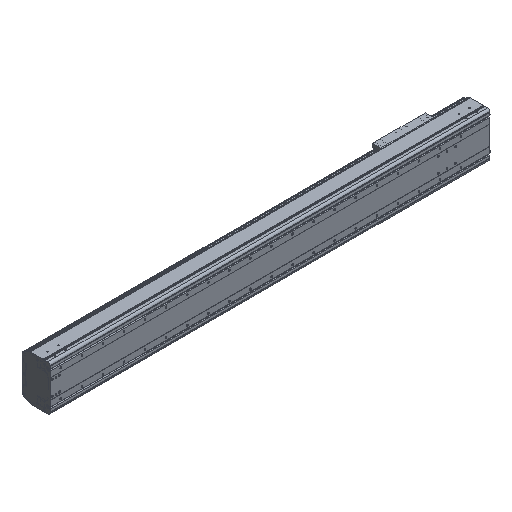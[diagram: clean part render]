
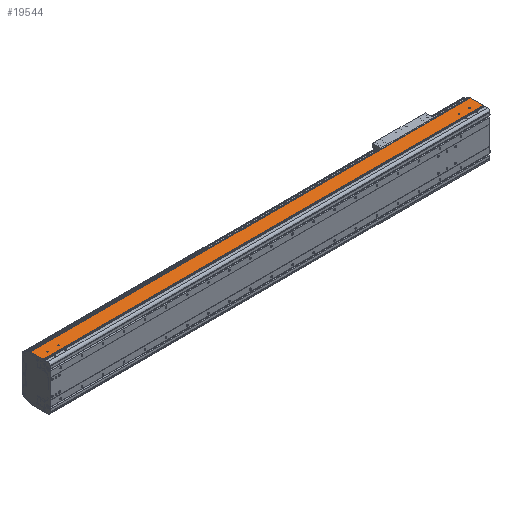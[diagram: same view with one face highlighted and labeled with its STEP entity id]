
A CAD part, isometric view. The second image highlights one B-rep face of the part: STEP entity #19544.
In plain terms, the highlighted planar face has unit normal (0, 0, 1).
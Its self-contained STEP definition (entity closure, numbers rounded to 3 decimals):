
#3266=DIRECTION('',(1.,0.,0.));
#3267=VECTOR('',#3266,2.);
#3268=CARTESIAN_POINT('',(0.,34.65,107.));
#3269=LINE('',#3268,#3267);
#3274=CARTESIAN_POINT('',(-42.,54.,107.));
#3275=DIRECTION('',(0.,0.,-1.));
#3276=DIRECTION('',(1.,0.,0.));
#3277=AXIS2_PLACEMENT_3D('',#3274,#3275,#3276);
#3279=CARTESIAN_POINT('',(-42.,54.,107.));
#3280=DIRECTION('',(0.,0.,-1.));
#3281=DIRECTION('',(-1.,0.,0.));
#3282=AXIS2_PLACEMENT_3D('',#3279,#3280,#3281);
#3284=CARTESIAN_POINT('',(-92.,54.,107.));
#3285=DIRECTION('',(0.,0.,-1.));
#3286=DIRECTION('',(1.,0.,0.));
#3287=AXIS2_PLACEMENT_3D('',#3284,#3285,#3286);
#3289=CARTESIAN_POINT('',(-92.,54.,107.));
#3290=DIRECTION('',(0.,0.,-1.));
#3291=DIRECTION('',(-1.,0.,0.));
#3292=AXIS2_PLACEMENT_3D('',#3289,#3290,#3291);
#3294=CARTESIAN_POINT('',(-2044.,54.,107.));
#3295=DIRECTION('',(0.,0.,-1.));
#3296=DIRECTION('',(1.,0.,0.));
#3297=AXIS2_PLACEMENT_3D('',#3294,#3295,#3296);
#3299=CARTESIAN_POINT('',(-2044.,54.,107.));
#3300=DIRECTION('',(0.,0.,-1.));
#3301=DIRECTION('',(-1.,0.,0.));
#3302=AXIS2_PLACEMENT_3D('',#3299,#3300,#3301);
#3304=CARTESIAN_POINT('',(-1994.,54.,107.));
#3305=DIRECTION('',(0.,0.,-1.));
#3306=DIRECTION('',(1.,0.,0.));
#3307=AXIS2_PLACEMENT_3D('',#3304,#3305,#3306);
#3309=CARTESIAN_POINT('',(-1994.,54.,107.));
#3310=DIRECTION('',(0.,0.,-1.));
#3311=DIRECTION('',(-1.,0.,0.));
#3312=AXIS2_PLACEMENT_3D('',#3309,#3310,#3311);
#3314=DIRECTION('',(0.,-1.,0.));
#3315=VECTOR('',#3314,2.55);
#3316=CARTESIAN_POINT('',(-2084.,34.65,107.));
#3317=LINE('',#3316,#3315);
#3318=DIRECTION('',(0.,-1.,0.));
#3319=VECTOR('',#3318,58.85);
#3320=CARTESIAN_POINT('',(-2086.,93.5,107.));
#3321=LINE('',#3320,#3319);
#3322=DIRECTION('',(0.,1.,0.));
#3323=VECTOR('',#3322,58.85);
#3324=CARTESIAN_POINT('',(2.,34.65,107.));
#3325=LINE('',#3324,#3323);
#3326=DIRECTION('',(0.,1.,0.));
#3327=VECTOR('',#3326,2.55);
#3328=CARTESIAN_POINT('',(0.,32.1,107.));
#3329=LINE('',#3328,#3327);
#3438=DIRECTION('',(1.,0.,0.));
#3439=VECTOR('',#3438,2.);
#3440=CARTESIAN_POINT('',(-2086.,34.65,107.));
#3441=LINE('',#3440,#3439);
#3450=DIRECTION('',(-1.,0.,0.));
#3451=VECTOR('',#3450,2088.);
#3452=CARTESIAN_POINT('',(2.,93.5,107.));
#3453=LINE('',#3452,#3451);
#11851=DIRECTION('',(1.,0.,0.));
#11852=VECTOR('',#11851,2084.);
#11853=CARTESIAN_POINT('',(-2084.,32.1,107.));
#11854=LINE('',#11853,#11852);
#13163=CARTESIAN_POINT('',(-2086.,34.65,107.));
#13164=VERTEX_POINT('',#13163);
#13165=CARTESIAN_POINT('',(-2086.,93.5,107.));
#13166=VERTEX_POINT('',#13165);
#13387=CARTESIAN_POINT('',(-2084.,32.1,107.));
#13388=VERTEX_POINT('',#13387);
#13459=CARTESIAN_POINT('',(0.,32.1,107.));
#13460=VERTEX_POINT('',#13459);
#14001=CARTESIAN_POINT('',(-39.5,54.,107.));
#14002=CARTESIAN_POINT('',(-44.5,54.,107.));
#14003=VERTEX_POINT('',#14001);
#14004=VERTEX_POINT('',#14002);
#14005=CARTESIAN_POINT('',(-89.5,54.,107.));
#14006=CARTESIAN_POINT('',(-94.5,54.,107.));
#14007=VERTEX_POINT('',#14005);
#14008=VERTEX_POINT('',#14006);
#14009=CARTESIAN_POINT('',(-2041.5,54.,107.));
#14010=CARTESIAN_POINT('',(-2046.5,54.,107.));
#14011=VERTEX_POINT('',#14009);
#14012=VERTEX_POINT('',#14010);
#14013=CARTESIAN_POINT('',(-1991.5,54.,107.));
#14014=CARTESIAN_POINT('',(-1996.5,54.,107.));
#14015=VERTEX_POINT('',#14013);
#14016=VERTEX_POINT('',#14014);
#15300=CARTESIAN_POINT('',(2.,34.65,107.));
#15301=VERTEX_POINT('',#15300);
#15302=CARTESIAN_POINT('',(2.,93.5,107.));
#15303=VERTEX_POINT('',#15302);
#15524=CARTESIAN_POINT('',(0.,34.65,107.));
#15525=VERTEX_POINT('',#15524);
#15836=CARTESIAN_POINT('',(-2084.,34.65,107.));
#15837=VERTEX_POINT('',#15836);
#19502=CARTESIAN_POINT('',(-1042.,62.8,107.));
#19503=DIRECTION('',(0.,0.,1.));
#19504=DIRECTION('',(0.,-1.,0.));
#19505=AXIS2_PLACEMENT_3D('',#19502,#19503,#19504);
#19506=PLANE('',#19505);
#19507=ORIENTED_EDGE('',*,*,#16586,.F.);
#19509=ORIENTED_EDGE('',*,*,#19508,.F.);
#19510=ORIENTED_EDGE('',*,*,#17669,.F.);
#19512=ORIENTED_EDGE('',*,*,#19511,.F.);
#19513=ORIENTED_EDGE('',*,*,#19300,.F.);
#19514=ORIENTED_EDGE('',*,*,#19495,.F.);
#19515=ORIENTED_EDGE('',*,*,#17194,.F.);
#19517=ORIENTED_EDGE('',*,*,#19516,.F.);
#19518=EDGE_LOOP('',(#19507,#19509,#19510,#19512,#19513,#19514,#19515,#19517));
#19519=FACE_OUTER_BOUND('',#19518,.F.);
#19521=ORIENTED_EDGE('',*,*,#19520,.F.);
#19523=ORIENTED_EDGE('',*,*,#19522,.F.);
#19524=EDGE_LOOP('',(#19521,#19523));
#19525=FACE_BOUND('',#19524,.F.);
#19527=ORIENTED_EDGE('',*,*,#19526,.F.);
#19529=ORIENTED_EDGE('',*,*,#19528,.F.);
#19530=EDGE_LOOP('',(#19527,#19529));
#19531=FACE_BOUND('',#19530,.F.);
#19533=ORIENTED_EDGE('',*,*,#19532,.F.);
#19535=ORIENTED_EDGE('',*,*,#19534,.F.);
#19536=EDGE_LOOP('',(#19533,#19535));
#19537=FACE_BOUND('',#19536,.F.);
#19539=ORIENTED_EDGE('',*,*,#19538,.F.);
#19541=ORIENTED_EDGE('',*,*,#19540,.F.);
#19542=EDGE_LOOP('',(#19539,#19541));
#19543=FACE_BOUND('',#19542,.F.);
#19544=ADVANCED_FACE('',(#19519,#19525,#19531,#19537,#19543),#19506,.T.);
#3278=CIRCLE('',#3277,2.5);
#3283=CIRCLE('',#3282,2.5);
#3288=CIRCLE('',#3287,2.5);
#3293=CIRCLE('',#3292,2.5);
#3298=CIRCLE('',#3297,2.5);
#3303=CIRCLE('',#3302,2.5);
#3308=CIRCLE('',#3307,2.5);
#3313=CIRCLE('',#3312,2.5);
#16586=EDGE_CURVE('',#15837,#13388,#3317,.T.);
#17194=EDGE_CURVE('',#13460,#15525,#3329,.T.);
#17669=EDGE_CURVE('',#13166,#13164,#3321,.T.);
#19300=EDGE_CURVE('',#15301,#15303,#3325,.T.);
#19495=EDGE_CURVE('',#15525,#15301,#3269,.T.);
#19508=EDGE_CURVE('',#13164,#15837,#3441,.T.);
#19511=EDGE_CURVE('',#15303,#13166,#3453,.T.);
#19516=EDGE_CURVE('',#13388,#13460,#11854,.T.);
#19520=EDGE_CURVE('',#14007,#14008,#3288,.T.);
#19522=EDGE_CURVE('',#14008,#14007,#3293,.T.);
#19526=EDGE_CURVE('',#14011,#14012,#3298,.T.);
#19528=EDGE_CURVE('',#14012,#14011,#3303,.T.);
#19532=EDGE_CURVE('',#14015,#14016,#3308,.T.);
#19534=EDGE_CURVE('',#14016,#14015,#3313,.T.);
#19538=EDGE_CURVE('',#14003,#14004,#3278,.T.);
#19540=EDGE_CURVE('',#14004,#14003,#3283,.T.);
